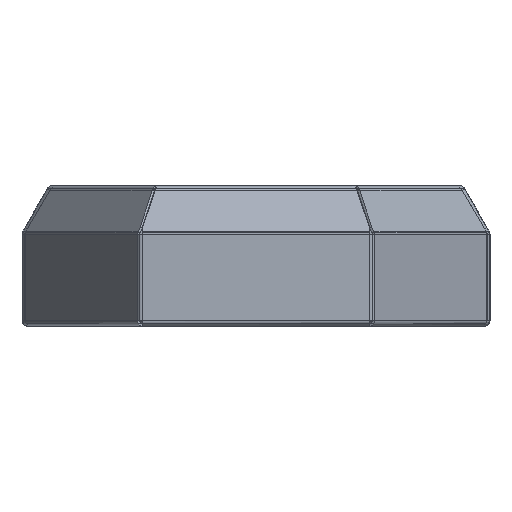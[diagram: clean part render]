
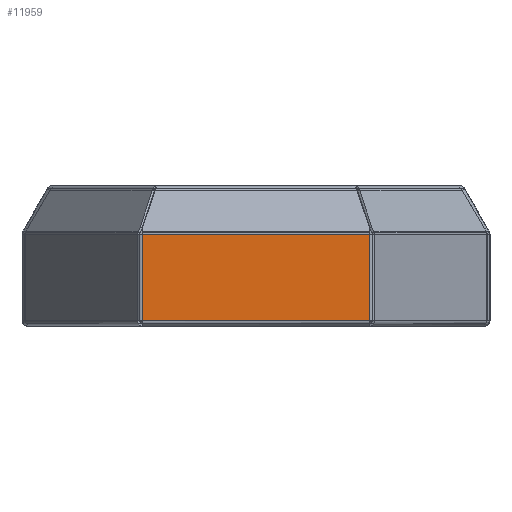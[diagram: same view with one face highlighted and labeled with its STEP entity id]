
A CAD part, left-side view. The second image highlights one B-rep face of the part: STEP entity #11959.
In plain terms, the highlighted planar face has unit normal (-1, 0, 0).
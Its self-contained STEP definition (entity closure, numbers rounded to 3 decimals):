
#2147=ORIENTED_EDGE('',*,*,#4982,.T.);
#2148=ORIENTED_EDGE('',*,*,#4989,.F.);
#2149=ORIENTED_EDGE('',*,*,#4949,.F.);
#2150=ORIENTED_EDGE('',*,*,#4948,.T.);
#4948=EDGE_CURVE('',#6384,#6386,#7541,.T.);
#4949=EDGE_CURVE('',#6384,#6413,#7542,.T.);
#4982=EDGE_CURVE('',#6386,#6427,#7564,.T.);
#4989=EDGE_CURVE('',#6413,#6427,#7570,.T.);
#6384=VERTEX_POINT('',#19248);
#6386=VERTEX_POINT('',#19263);
#6413=VERTEX_POINT('',#19433);
#6427=VERTEX_POINT('',#19625);
#7541=LINE('',#19430,#8498);
#7542=LINE('',#19432,#8499);
#7564=LINE('',#19626,#8521);
#7570=LINE('',#19640,#8527);
#8498=VECTOR('',#15248,1000.);
#8499=VECTOR('',#15251,1000.);
#8521=VECTOR('',#15311,1000.);
#8527=VECTOR('',#15327,1000.);
#9391=EDGE_LOOP('',(#2147,#2148,#2149,#2150));
#10505=FACE_BOUND('',#9391,.T.);
#11527=PLANE('',#13401);
#11959=ADVANCED_FACE('',(#10505),#11527,.F.);
#13401=AXIS2_PLACEMENT_3D('',#19639,#15325,#15326);
#15248=DIRECTION('',(0.,0.,1.));
#15251=DIRECTION('',(0.,1.,0.));
#15311=DIRECTION('',(0.,1.,0.));
#15325=DIRECTION('',(1.,0.,0.));
#15326=DIRECTION('',(0.,1.,0.));
#15327=DIRECTION('',(0.,0.,1.));
#19248=CARTESIAN_POINT('',(0.,-121.536,6.));
#19263=CARTESIAN_POINT('',(0.,-121.536,98.392));
#19430=CARTESIAN_POINT('',(0.,-121.536,6.));
#19432=CARTESIAN_POINT('',(0.,125.,6.));
#19433=CARTESIAN_POINT('',(0.,121.536,6.));
#19625=CARTESIAN_POINT('',(0.,121.536,98.392));
#19626=CARTESIAN_POINT('',(0.,125.,98.392));
#19639=CARTESIAN_POINT('',(0.,125.,6.));
#19640=CARTESIAN_POINT('',(0.,121.536,6.));
